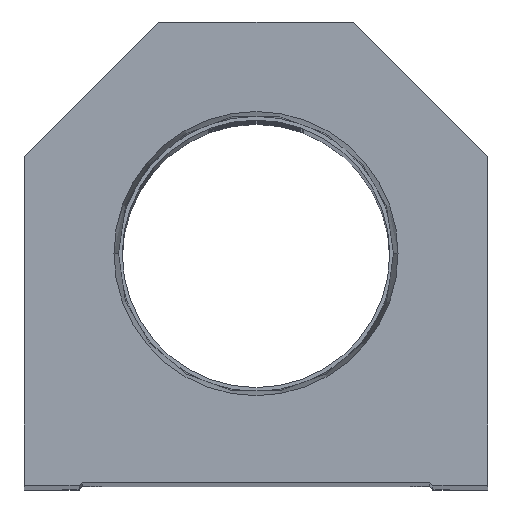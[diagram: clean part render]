
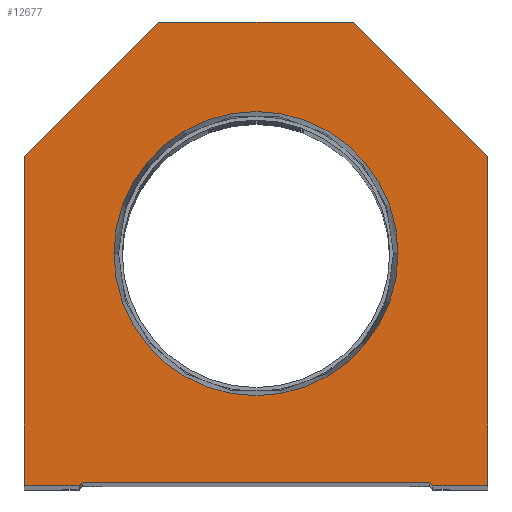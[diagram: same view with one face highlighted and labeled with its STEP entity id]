
A CAD part, top view. The second image highlights one B-rep face of the part: STEP entity #12677.
In plain terms, the highlighted planar face has unit normal (0, 0, 1).
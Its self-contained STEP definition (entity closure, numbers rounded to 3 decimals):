
#156 = CARTESIAN_POINT ( 'NONE',  ( -38.1, 54.1, 0. ) ) ;
#192 = LINE ( 'NONE', #6753, #11367 ) ;
#651 = VERTEX_POINT ( 'NONE', #4382 ) ;
#770 = CARTESIAN_POINT ( 'NONE',  ( 16., 76.2, 0. ) ) ;
#904 = ORIENTED_EDGE ( 'NONE', *, *, #13031, .F. ) ;
#1018 = VECTOR ( 'NONE', #10739, 1000. ) ;
#1115 = CARTESIAN_POINT ( 'NONE',  ( -28.6, 0.5, 0. ) ) ;
#1305 = DIRECTION ( 'NONE',  ( 0., 0., 1. ) ) ;
#1470 = FACE_BOUND ( 'NONE', #6774, .T. ) ;
#1915 = VERTEX_POINT ( 'NONE', #3398 ) ;
#2098 = CARTESIAN_POINT ( 'NONE',  ( -28.6, 0.5, 0. ) ) ;
#2142 = EDGE_LOOP ( 'NONE', ( #13835, #3396, #15483, #14941, #12402, #2597, #7421, #6438, #16399, #11156 ) ) ;
#2376 = CARTESIAN_POINT ( 'NONE',  ( -38.1, 54.1, 0. ) ) ;
#2597 = ORIENTED_EDGE ( 'NONE', *, *, #16730, .T. ) ;
#2774 = VECTOR ( 'NONE', #7616, 1000. ) ;
#2842 = CARTESIAN_POINT ( 'NONE',  ( 0., 38.1, 0. ) ) ;
#2895 = VERTEX_POINT ( 'NONE', #1115 ) ;
#2938 = CARTESIAN_POINT ( 'NONE',  ( 0., 0., 0. ) ) ;
#3052 = DIRECTION ( 'NONE',  ( 0., -1., 0. ) ) ;
#3209 = CIRCLE ( 'NONE', #4603, 23.374 ) ;
#3251 = AXIS2_PLACEMENT_3D ( 'NONE', #2938, #8246, #12031 ) ;
#3396 = ORIENTED_EDGE ( 'NONE', *, *, #12743, .T. ) ;
#3398 = CARTESIAN_POINT ( 'NONE',  ( 38.1, 0., 0. ) ) ;
#3527 = AXIS2_PLACEMENT_3D ( 'NONE', #2842, #16260, #4303 ) ;
#3910 = EDGE_CURVE ( 'NONE', #7782, #5409, #5590, .T. ) ;
#4303 = DIRECTION ( 'NONE',  ( 1., 0., 0. ) ) ;
#4359 = VECTOR ( 'NONE', #10396, 1000. ) ;
#4382 = CARTESIAN_POINT ( 'NONE',  ( 16., 76.2, 0. ) ) ;
#4532 = ORIENTED_EDGE ( 'NONE', *, *, #10217, .F. ) ;
#4596 = VERTEX_POINT ( 'NONE', #12012 ) ;
#4603 = AXIS2_PLACEMENT_3D ( 'NONE', #13185, #1305, #6633 ) ;
#4933 = VECTOR ( 'NONE', #11347, 1000. ) ;
#5278 = CARTESIAN_POINT ( 'NONE',  ( -28.6, 0., 0. ) ) ;
#5409 = VERTEX_POINT ( 'NONE', #11068 ) ;
#5590 = LINE ( 'NONE', #9660, #16524 ) ;
#6106 = DIRECTION ( 'NONE',  ( -1., 0., 0. ) ) ;
#6438 = ORIENTED_EDGE ( 'NONE', *, *, #13326, .T. ) ;
#6579 = DIRECTION ( 'NONE',  ( 1., 0., 0. ) ) ;
#6584 = LINE ( 'NONE', #2376, #2774 ) ;
#6617 = LINE ( 'NONE', #14308, #4359 ) ;
#6633 = DIRECTION ( 'NONE',  ( 1., 0., 0. ) ) ;
#6753 = CARTESIAN_POINT ( 'NONE',  ( 38.1, 0., 0. ) ) ;
#6774 = EDGE_LOOP ( 'NONE', ( #904, #4532 ) ) ;
#6780 = CARTESIAN_POINT ( 'NONE',  ( 14.55, 14.55, 0. ) ) ;
#7122 = EDGE_CURVE ( 'NONE', #4596, #651, #7775, .T. ) ;
#7209 = VECTOR ( 'NONE', #6579, 1000. ) ;
#7421 = ORIENTED_EDGE ( 'NONE', *, *, #7122, .T. ) ;
#7616 = DIRECTION ( 'NONE',  ( -0.707, -0.707, 0. ) ) ;
#7692 = CARTESIAN_POINT ( 'NONE',  ( -16., 76.2, 0. ) ) ;
#7710 = CIRCLE ( 'NONE', #3527, 23.374 ) ;
#7775 = LINE ( 'NONE', #12852, #10508 ) ;
#7782 = VERTEX_POINT ( 'NONE', #156 ) ;
#7811 = VERTEX_POINT ( 'NONE', #11273 ) ;
#7869 = LINE ( 'NONE', #5278, #7209 ) ;
#8246 = DIRECTION ( 'NONE',  ( 0., 0., 1. ) ) ;
#8472 = VECTOR ( 'NONE', #16856, 1000. ) ;
#8646 = CARTESIAN_POINT ( 'NONE',  ( -29.1, 0., 0. ) ) ;
#9370 = VECTOR ( 'NONE', #6106, 1000. ) ;
#9426 = DIRECTION ( 'NONE',  ( 0., 1., 0. ) ) ;
#9637 = LINE ( 'NONE', #6780, #1018 ) ;
#9660 = CARTESIAN_POINT ( 'NONE',  ( -38.1, 0., 0. ) ) ;
#9870 = EDGE_CURVE ( 'NONE', #2895, #17003, #11312, .T. ) ;
#10217 = EDGE_CURVE ( 'NONE', #14022, #7811, #3209, .T. ) ;
#10260 = CARTESIAN_POINT ( 'NONE',  ( -23.374, 38.1, 0. ) ) ;
#10396 = DIRECTION ( 'NONE',  ( 1., 0., 0. ) ) ;
#10508 = VECTOR ( 'NONE', #11650, 1000. ) ;
#10739 = DIRECTION ( 'NONE',  ( 0.707, -0.707, 0. ) ) ;
#10990 = FACE_OUTER_BOUND ( 'NONE', #2142, .T. ) ;
#11068 = CARTESIAN_POINT ( 'NONE',  ( -38.1, 0., 0. ) ) ;
#11156 = ORIENTED_EDGE ( 'NONE', *, *, #3910, .T. ) ;
#11166 = LINE ( 'NONE', #15161, #4933 ) ;
#11216 = VERTEX_POINT ( 'NONE', #8646 ) ;
#11273 = CARTESIAN_POINT ( 'NONE',  ( 23.374, 38.1, 0. ) ) ;
#11305 = VERTEX_POINT ( 'NONE', #14082 ) ;
#11312 = LINE ( 'NONE', #2098, #8472 ) ;
#11347 = DIRECTION ( 'NONE',  ( 0.707, 0.707, 0. ) ) ;
#11367 = VECTOR ( 'NONE', #9426, 1000. ) ;
#11650 = DIRECTION ( 'NONE',  ( -0.707, 0.707, 0. ) ) ;
#11974 = CARTESIAN_POINT ( 'NONE',  ( 28.6, 0.5, 0. ) ) ;
#12012 = CARTESIAN_POINT ( 'NONE',  ( 38.1, 54.1, 0. ) ) ;
#12031 = DIRECTION ( 'NONE',  ( 1., 0., 0. ) ) ;
#12402 = ORIENTED_EDGE ( 'NONE', *, *, #12494, .T. ) ;
#12494 = EDGE_CURVE ( 'NONE', #11305, #1915, #6617, .T. ) ;
#12603 = EDGE_CURVE ( 'NONE', #17003, #11305, #9637, .T. ) ;
#12677 = ADVANCED_FACE ( 'NONE', ( #1470, #10990 ), #14917, .T. ) ;
#12743 = EDGE_CURVE ( 'NONE', #11216, #2895, #11166, .T. ) ;
#12852 = CARTESIAN_POINT ( 'NONE',  ( 38.1, 54.1, 0. ) ) ;
#13031 = EDGE_CURVE ( 'NONE', #7811, #14022, #7710, .T. ) ;
#13185 = CARTESIAN_POINT ( 'NONE',  ( 0., 38.1, 0. ) ) ;
#13224 = VERTEX_POINT ( 'NONE', #7692 ) ;
#13326 = EDGE_CURVE ( 'NONE', #651, #13224, #13969, .T. ) ;
#13835 = ORIENTED_EDGE ( 'NONE', *, *, #14739, .T. ) ;
#13969 = LINE ( 'NONE', #770, #9370 ) ;
#14022 = VERTEX_POINT ( 'NONE', #10260 ) ;
#14082 = CARTESIAN_POINT ( 'NONE',  ( 29.1, 0., 0. ) ) ;
#14308 = CARTESIAN_POINT ( 'NONE',  ( 28.6, 0., 0. ) ) ;
#14739 = EDGE_CURVE ( 'NONE', #5409, #11216, #7869, .T. ) ;
#14917 = PLANE ( 'NONE',  #3251 ) ;
#14941 = ORIENTED_EDGE ( 'NONE', *, *, #12603, .T. ) ;
#15161 = CARTESIAN_POINT ( 'NONE',  ( -14.55, 14.55, 0. ) ) ;
#15483 = ORIENTED_EDGE ( 'NONE', *, *, #9870, .T. ) ;
#15998 = EDGE_CURVE ( 'NONE', #13224, #7782, #6584, .T. ) ;
#16260 = DIRECTION ( 'NONE',  ( 0., 0., 1. ) ) ;
#16399 = ORIENTED_EDGE ( 'NONE', *, *, #15998, .T. ) ;
#16524 = VECTOR ( 'NONE', #3052, 1000. ) ;
#16730 = EDGE_CURVE ( 'NONE', #1915, #4596, #192, .T. ) ;
#16856 = DIRECTION ( 'NONE',  ( 1., 0., 0. ) ) ;
#17003 = VERTEX_POINT ( 'NONE', #11974 ) ;
